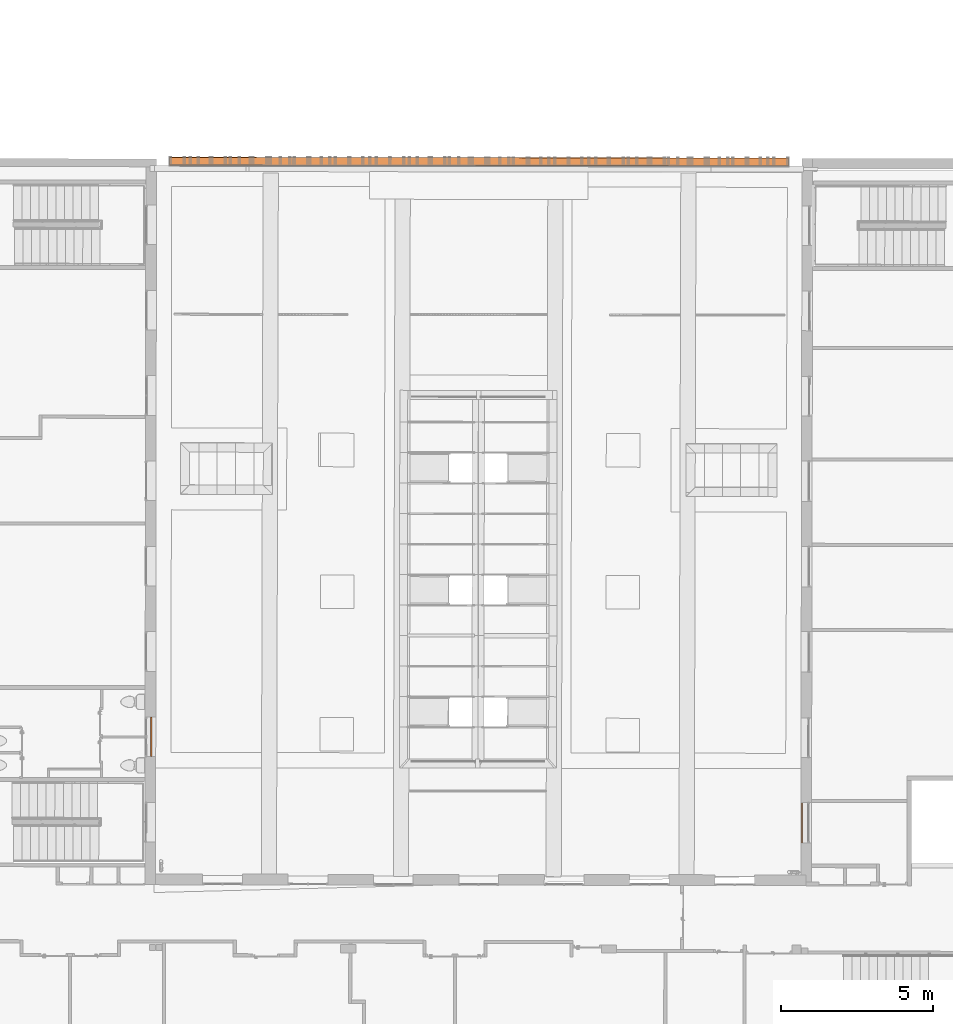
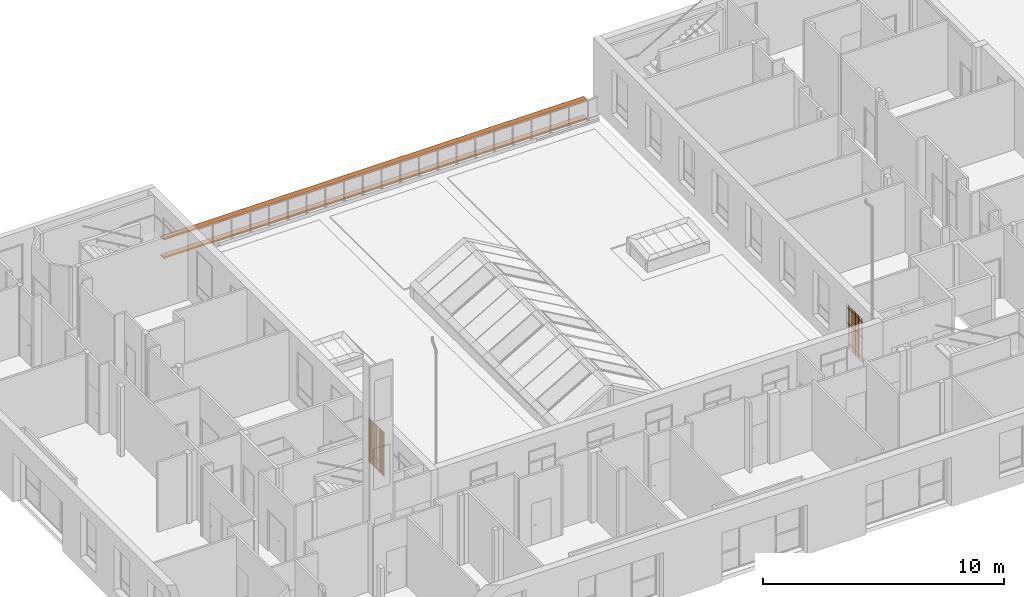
# One storey, part 101 of 101: 4 proxies.
"""IFC2X3 building model written with IfcOpenShell, lengths in metres."""

from ifc_helpers import new_model, entity, si_unit, converted_unit, derived_unit, direction, frame, frame_2d, origin, place, context, subcontext, project, spatial, polyline, circle_curve, parameter, trimmed, segment, composite_curve, outline, extrude, source, transform, mapped, material, type_object, type_shapes, element, save


model = new_model("IFC2X3")

# Units and contexts
model_context = context("Model", 3, precision=1e-05, world=origin(), true_north=direction((6.123233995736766e-17, 1.0)))
body_context = subcontext(model_context, "Body", "Model", "MODEL_VIEW")
ifc_project = project(units=[si_unit("LENGTHUNIT", "METRE"), si_unit("AREAUNIT", "SQUARE_METRE"), converted_unit("PLANEANGLEUNIT", "DEGREE", entity("IfcPlaneAngleMeasure", 0.017453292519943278), si_unit("PLANEANGLEUNIT", "RADIAN"), dimensions=[0, 0, 0, 0, 0, 0, 0]), derived_unit("THERMALTRANSMITTANCEUNIT", [(si_unit("MASSUNIT", "GRAM", prefix="KILO"), 1), (si_unit("THERMODYNAMICTEMPERATUREUNIT", "KELVIN"), -1), (si_unit("TIMEUNIT", "SECOND"), -3)])], contexts=[model_context])

# Site, building, storey
site_placement = place(None, frame((1253.6752467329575, 2072.143113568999, 91.49999999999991), z_axis=(0.0, 0.0, 1.0), x_axis=(0.7237211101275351, 0.6900925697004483, 0.0)))
site = spatial("IfcSite", under=ifc_project, at=site_placement, Name="Surface", CompositionType="ELEMENT")
building_placement = place(site_placement, origin())
building = spatial("IfcBuilding", under=site, at=building_placement, CompositionType="ELEMENT")
storey_placement = place(building_placement, origin())
storey = spatial("IfcBuildingStorey", under=building, at=storey_placement, Name="0- Rdc", CompositionType="ELEMENT", Elevation=-5.764692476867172e-13)

# Proxies
ifc_material_1 = material(Name="White RAL 9003")
building_element_proxy_type_1 = type_object("IfcBuildingElementProxyType", Name="grille WC:grille WC", PredefinedType="NOTDEFINED", material=ifc_material_1)
shared_shape_1 = source(origin(), body_context, "Body", "SweptSolid", [
    extrude(outline(polyline([(-0.6457871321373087, -1.3410000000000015), (0.6539087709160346, -1.3410000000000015), (0.653908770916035, -1.3310000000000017), (0.6039087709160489, -1.3310000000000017), (0.6039087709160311, 0.3639999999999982), (0.6539087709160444, 0.3639999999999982), (0.6539087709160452, 0.3739999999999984), (0.6039087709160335, 0.3739999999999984), (0.6039087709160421, 0.838999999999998), (0.6539087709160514, 0.838999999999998), (0.6539087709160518, 0.8489999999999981), (-0.6457871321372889, 0.8489999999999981), (-0.6457871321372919, 0.8390000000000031), (-0.6160912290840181, 0.8390000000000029), (-0.6160912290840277, 0.3740000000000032), (-0.6457871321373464, 0.3740000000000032), (-0.6457871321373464, 0.3640000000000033), (-0.6160912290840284, 0.3640000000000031), (-0.6160912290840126, -1.3309999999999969), (-0.6457871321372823, -1.3309999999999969), (-0.6457871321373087, -1.3410000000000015)]), holes=[polyline([(0.5839087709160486, 0.3739999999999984), (0.48390877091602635, 0.3739999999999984), (0.48390877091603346, 0.838999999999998), (0.5839087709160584, 0.838999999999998), (0.5839087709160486, 0.3739999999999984)]), polyline([(0.5839087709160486, 0.3639999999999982), (0.5839087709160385, -1.3310000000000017), (0.4839087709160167, -1.3310000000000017), (0.4839087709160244, 0.3639999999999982), (0.5839087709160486, 0.3639999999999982)]), polyline([(0.4639087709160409, 0.3639999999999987), (0.4639087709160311, -1.331000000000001), (0.36390877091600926, -1.331000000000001), (0.36390877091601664, 0.3639999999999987), (0.4639087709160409, 0.3639999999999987)]), polyline([(0.4639087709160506, 0.8389999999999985), (0.4639087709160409, 0.3739999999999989), (0.3639087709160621, 0.3739999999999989), (0.36390877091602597, 0.8389999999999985), (0.4639087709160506, 0.8389999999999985)]), polyline([(0.34390877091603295, 0.36399999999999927), (0.34390877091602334, -1.3310000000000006), (0.2439087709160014, -1.3310000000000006), (0.2439087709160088, 0.36399999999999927), (0.34390877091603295, 0.36399999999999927)]), polyline([(0.3439087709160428, 0.8389999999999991), (0.34390877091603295, 0.37399999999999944), (0.24390877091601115, 0.37399999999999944), (0.2439087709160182, 0.8389999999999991), (0.3439087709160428, 0.8389999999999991)]), polyline([(0.22390877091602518, 0.3639999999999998), (0.2239087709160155, -1.3310000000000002), (0.12390877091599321, -1.3310000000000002), (0.12390877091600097, 0.3639999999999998), (0.22390877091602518, 0.3639999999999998)]), polyline([(0.22390877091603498, 0.8389999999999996), (0.22390877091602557, 0.374), (0.12390877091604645, 0.374), (0.12390877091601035, 0.8389999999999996), (0.22390877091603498, 0.8389999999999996)]), polyline([(0.10390877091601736, 0.3640000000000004), (0.10390877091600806, -1.3309999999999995), (0.003908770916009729, -1.3309999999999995), (0.003908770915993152, 0.3640000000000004), (0.10390877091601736, 0.3640000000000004)]), polyline([(0.10390877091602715, 0.8390000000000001), (0.10390877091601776, 0.37400000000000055), (0.003908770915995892, 0.37400000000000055), (0.003908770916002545, 0.8390000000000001), (0.10390877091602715, 0.8390000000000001)]), polyline([(-0.01609122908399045, 0.3640000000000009), (-0.016091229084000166, -1.330999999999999), (-0.11609122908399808, -1.330999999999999), (-0.11609122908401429, 0.3640000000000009), (-0.01609122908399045, 0.3640000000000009)]), polyline([(-0.016091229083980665, 0.8390000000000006), (-0.01609122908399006, 0.37400000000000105), (-0.11609122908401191, 0.37400000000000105), (-0.11609122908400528, 0.8390000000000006), (-0.016091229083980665, 0.8390000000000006)]), polyline([(-0.13609122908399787, 0.36400000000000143), (-0.13609122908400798, -1.3309999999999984), (-0.23609122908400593, -1.3309999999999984), (-0.2360912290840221, 0.36400000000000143), (-0.13609122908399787, 0.36400000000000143)]), polyline([(-0.1360912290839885, 0.8390000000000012), (-0.13609122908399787, 0.3740000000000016), (-0.23609122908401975, 0.3740000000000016), (-0.2360912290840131, 0.8390000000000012), (-0.1360912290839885, 0.8390000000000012)]), polyline([(-0.25609122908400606, 0.364000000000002), (-0.25609122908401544, -1.330999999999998), (-0.35609122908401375, -1.330999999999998), (-0.3560912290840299, 0.364000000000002), (-0.25609122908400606, 0.364000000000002)]), polyline([(-0.25609122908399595, 0.8390000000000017), (-0.25609122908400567, 0.37400000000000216), (-0.3560912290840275, 0.37400000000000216), (-0.3560912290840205, 0.8390000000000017), (-0.25609122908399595, 0.8390000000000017)]), polyline([(-0.3760912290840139, 0.36400000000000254), (-0.3760912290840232, -1.3309999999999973), (-0.47609122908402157, -1.3309999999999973), (-0.4760912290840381, 0.36400000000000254), (-0.3760912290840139, 0.36400000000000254)]), polyline([(-0.3760912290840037, 0.8390000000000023), (-0.37609122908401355, 0.3740000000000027), (-0.4760912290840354, 0.3740000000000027), (-0.47609122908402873, 0.8390000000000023), (-0.3760912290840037, 0.8390000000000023)]), polyline([(-0.49609122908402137, 0.3640000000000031), (-0.49609122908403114, -1.3309999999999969), (-0.5960912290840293, -1.3309999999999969), (-0.596091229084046, 0.3640000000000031), (-0.49609122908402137, 0.3640000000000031)]), polyline([(-0.4960912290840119, 0.8390000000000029), (-0.49609122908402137, 0.3740000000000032), (-0.5960912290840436, 0.3740000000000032), (-0.5960912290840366, 0.8390000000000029), (-0.4960912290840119, 0.8390000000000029)])]), frame((163.06232119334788, 4.475421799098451, 1.5089999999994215), z_axis=(0.7228702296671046, -0.6909838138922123, 0.0), x_axis=(-0.6909838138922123, -0.7228702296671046, 0.0)), (0.0, 0.0, 1.0), 0.0527295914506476),
])
type_shapes(building_element_proxy_type_1, [shared_shape_1])
proxy_1_placement = place(storey_placement, origin())
element("IfcBuildingElementProxy", 1, at=proxy_1_placement, inside=storey, type_object=building_element_proxy_type_1, material=ifc_material_1, Name="grille WC:grille WC", ObjectType="grille WC:grille WC", context=body_context, shape_type="MappedRepresentation", body=[
    mapped(shared_shape_1, transform((0.0, 0.0, 0.0), scale=1.0)),
])
building_element_proxy_type_2 = type_object("IfcBuildingElementProxyType", Name="grille 2:grille 2", PredefinedType="NOTDEFINED", material=ifc_material_1)
shared_shape_2 = source(origin(), body_context, "Body", "SweptSolid", [
    extrude(outline(polyline([(0.6089762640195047, 0.7776050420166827), (0.6589762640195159, 0.7776050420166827), (0.6589762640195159, 0.7976050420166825), (0.6089762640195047, 0.7976050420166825), (0.6089762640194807, 0.9776050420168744), (0.5989762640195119, 0.9926050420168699), (0.5889762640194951, 0.9776050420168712), (0.5889762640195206, 0.7976050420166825), (0.4889762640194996, 0.7976050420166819), (0.488976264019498, 0.977605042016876), (0.47897626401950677, 0.9926050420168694), (0.46897626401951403, 0.9776050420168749), (0.46897626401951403, 0.7976050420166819), (0.36897626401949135, 0.7976050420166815), (0.36897626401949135, 0.9776050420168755), (0.35897626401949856, 0.9926050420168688), (0.3489762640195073, 0.9776050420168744), (0.34897626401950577, 0.7976050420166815), (0.24897626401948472, 0.7976050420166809), (0.24897626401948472, 0.9776050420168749), (0.23897626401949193, 0.9926050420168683), (0.22897626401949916, 0.9776050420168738), (0.22897626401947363, 0.7976050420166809), (0.12897626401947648, 0.7976050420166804), (0.12897626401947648, 0.9776050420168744), (0.11897626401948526, 0.9926050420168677), (0.1089762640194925, 0.9776050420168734), (0.10897626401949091, 0.7976050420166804), (0.008976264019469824, 0.7976050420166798), (0.008976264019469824, 0.9776050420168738), (-0.001023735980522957, 0.9926050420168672), (-0.011023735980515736, 0.9776050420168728), (-0.011023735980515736, 0.7976050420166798), (-0.11102373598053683, 0.7976050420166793), (-0.11102373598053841, 0.9776050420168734), (-0.12102373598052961, 0.9926050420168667), (-0.1310237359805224, 0.9776050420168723), (-0.1310237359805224, 0.7976050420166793), (-0.2310237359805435, 0.7976050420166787), (-0.23102373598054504, 0.9776050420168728), (-0.24102373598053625, 0.9926050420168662), (-0.2510237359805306, 0.9776050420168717), (-0.2510237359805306, 0.7976050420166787), (-0.35102373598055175, 0.7976050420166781), (-0.3510237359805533, 0.9776050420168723), (-0.36102373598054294, 0.9926050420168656), (-0.3710237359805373, 0.9776050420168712), (-0.3710237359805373, 0.7976050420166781), (-0.47102373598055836, 0.7976050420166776), (-0.4710237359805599, 0.9776050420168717), (-0.48102373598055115, 0.9926050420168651), (-0.49102373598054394, 0.9776050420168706), (-0.49102373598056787, 0.7976050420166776), (-0.591023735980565, 0.7976050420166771), (-0.5910237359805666, 0.9776050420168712), (-0.6010237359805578, 0.9926050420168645), (-0.6110237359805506, 0.97760504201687), (-0.6110237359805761, 0.7976050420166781), (-0.6407196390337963, 0.7976050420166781), (-0.6407196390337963, 0.7776050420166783), (-0.6110237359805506, 0.7776050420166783), (-0.6110237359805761, 0.03760504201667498), (-0.6407196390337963, 0.03760504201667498), (-0.6407196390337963, 0.017605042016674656), (-0.6110237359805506, 0.017605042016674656), (-0.6110237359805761, -0.9673949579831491), (-0.6407196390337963, -0.9673949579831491), (-0.6407196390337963, -0.9873949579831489), (-0.6110237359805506, -0.9873949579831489), (-0.6110237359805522, -1.2423949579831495), (-0.591023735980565, -1.2423949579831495), (-0.591023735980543, -0.9873949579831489), (-0.49102373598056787, -0.9873949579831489), (-0.49102373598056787, -1.242394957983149), (-0.47102373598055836, -1.2423949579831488), (-0.47102373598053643, -0.9873949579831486), (-0.3710237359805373, -0.9873949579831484), (-0.3710237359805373, -1.2423949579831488), (-0.35102373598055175, -1.2423949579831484), (-0.35102373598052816, -0.9873949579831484), (-0.2510237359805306, -0.9873949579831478), (-0.2510237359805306, -1.2423949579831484), (-0.2310237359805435, -1.242394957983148), (-0.23102373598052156, -0.9873949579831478), (-0.1310237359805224, -0.9873949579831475), (-0.1310237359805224, -1.2423949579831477), (-0.11102373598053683, -1.2423949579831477), (-0.11102373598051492, -0.9873949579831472), (-0.011023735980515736, -0.9873949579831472), (-0.011023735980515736, -1.2423949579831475), (0.008976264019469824, -1.2423949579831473), (0.008976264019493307, -0.9873949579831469), (0.10897626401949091, -0.9873949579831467), (0.10897626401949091, -1.2423949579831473), (0.12897626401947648, -1.2423949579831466), (0.12897626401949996, -0.9873949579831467), (0.22897626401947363, -0.9873949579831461), (0.22897626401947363, -1.2423949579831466), (0.24897626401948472, -1.2423949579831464), (0.24897626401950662, -0.9873949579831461), (0.34897626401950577, -0.9873949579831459), (0.34897626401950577, -1.2423949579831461), (0.36897626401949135, -1.2423949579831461), (0.36897626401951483, -0.9873949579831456), (0.46897626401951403, -0.9873949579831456), (0.46897626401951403, -1.242394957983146), (0.4889762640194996, -1.2423949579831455), (0.48897626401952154, -0.9873949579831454), (0.5889762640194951, -0.987394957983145), (0.5889762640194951, -1.2423949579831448), (0.6089762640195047, -1.2423949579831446), (0.6089762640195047, -0.987394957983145), (0.658976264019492, -0.9873949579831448), (0.658976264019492, -0.9673949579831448), (0.6089762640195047, -0.9673949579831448), (0.6089762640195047, 0.017605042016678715), (0.6589762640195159, 0.017605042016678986), (0.6589762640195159, 0.037605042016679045), (0.6089762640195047, 0.037605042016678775), (0.6089762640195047, 0.7776050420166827)]), holes=[polyline([(0.48897626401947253, 0.7776050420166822), (0.5889762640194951, 0.7776050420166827), (0.5889762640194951, 0.037605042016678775), (0.488976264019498, 0.037605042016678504), (0.48897626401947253, 0.7776050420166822)]), polyline([(0.488976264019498, 0.017605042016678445), (0.5889762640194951, 0.017605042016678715), (0.5889762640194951, -0.967394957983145), (0.4889762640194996, -0.9673949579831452), (0.488976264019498, 0.017605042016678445)]), polyline([(0.46897626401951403, 0.7776050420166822), (0.4689762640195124, 0.037605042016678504), (0.36897626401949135, 0.03760504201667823), (0.3689762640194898, 0.7776050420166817), (0.46897626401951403, 0.7776050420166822)]), polyline([(0.46897626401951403, 0.017605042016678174), (0.4689762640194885, -0.9673949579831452), (0.36897626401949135, -0.9673949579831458), (0.3689762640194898, 0.017605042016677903), (0.46897626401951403, 0.017605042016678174)]), polyline([(0.34897626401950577, 0.7776050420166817), (0.3489762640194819, 0.03760504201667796), (0.24897626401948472, 0.03760504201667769), (0.24897626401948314, 0.7776050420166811), (0.34897626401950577, 0.7776050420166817)]), polyline([(0.34897626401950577, 0.017605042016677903), (0.3489762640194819, -0.9673949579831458), (0.24897626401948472, -0.9673949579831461), (0.24897626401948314, 0.017605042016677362), (0.34897626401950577, 0.017605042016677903)]), polyline([(0.22897626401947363, 0.7776050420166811), (0.22897626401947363, 0.03760504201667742), (0.12897626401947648, 0.03760504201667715), (0.12897626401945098, 0.7776050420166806), (0.22897626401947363, 0.7776050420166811)]), polyline([(0.22897626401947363, 0.01760504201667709), (0.22897626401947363, -0.9673949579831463), (0.12897626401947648, -0.9673949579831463), (0.12897626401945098, 0.01760504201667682), (0.22897626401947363, 0.01760504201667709)]), polyline([(0.10897626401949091, 0.7776050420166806), (0.10897626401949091, 0.03760504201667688), (0.008976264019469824, 0.03760504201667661), (0.008976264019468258, 0.77760504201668), (0.10897626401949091, 0.7776050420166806)]), polyline([(0.10897626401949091, 0.01760504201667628), (0.10897626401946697, -0.9673949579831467), (0.008976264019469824, -0.9673949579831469), (0.008976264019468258, 0.01760504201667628), (0.10897626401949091, 0.01760504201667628)]), polyline([(-0.011023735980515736, 0.77760504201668), (-0.01102373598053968, 0.03760504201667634), (-0.11102373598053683, 0.03760504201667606), (-0.11102373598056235, 0.7776050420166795), (-0.011023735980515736, 0.77760504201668)]), polyline([(-0.011023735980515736, 0.01760504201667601), (-0.011023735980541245, -0.9673949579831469), (-0.11102373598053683, -0.9673949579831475), (-0.11102373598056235, 0.01760504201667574), (-0.011023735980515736, 0.01760504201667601)]), polyline([(-0.1310237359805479, 0.7776050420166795), (-0.1310237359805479, 0.03760504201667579), (-0.2310237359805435, 0.03760504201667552), (-0.23102373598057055, 0.7776050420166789), (-0.1310237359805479, 0.7776050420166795)]), polyline([(-0.1310237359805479, 0.01760504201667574), (-0.1310237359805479, -0.9673949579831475), (-0.2310237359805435, -0.9673949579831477), (-0.23102373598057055, 0.017605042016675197), (-0.1310237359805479, 0.01760504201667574)]), polyline([(-0.2510237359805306, 0.7776050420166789), (-0.25102373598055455, 0.03760504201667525), (-0.35102373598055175, 0.03760504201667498), (-0.35102373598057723, 0.7776050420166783), (-0.2510237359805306, 0.7776050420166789)]), polyline([(-0.2510237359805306, 0.017605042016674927), (-0.25102373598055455, -0.967394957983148), (-0.35102373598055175, -0.967394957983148), (-0.35102373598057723, 0.017605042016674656), (-0.2510237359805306, 0.017605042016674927)]), polyline([(-0.3710237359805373, 0.7776050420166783), (-0.37102373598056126, 0.03760504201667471), (-0.47102373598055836, 0.03760504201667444), (-0.4710237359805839, 0.7776050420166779), (-0.3710237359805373, 0.7776050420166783)]), polyline([(-0.3710237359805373, 0.017605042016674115), (-0.37102373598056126, -0.9673949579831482), (-0.47102373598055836, -0.9673949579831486), (-0.4710237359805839, 0.017605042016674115), (-0.3710237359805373, 0.017605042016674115)]), polyline([(-0.49102373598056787, 0.7776050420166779), (-0.4910237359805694, 0.03760504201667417), (-0.5910237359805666, 0.0376050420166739), (-0.5910237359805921, 0.7776050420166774), (-0.49102373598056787, 0.7776050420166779)]), polyline([(-0.49102373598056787, 0.017605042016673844), (-0.4910237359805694, -0.9673949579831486), (-0.5910237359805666, -0.9673949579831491), (-0.5910237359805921, 0.017605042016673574), (-0.49102373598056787, 0.017605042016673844)])]), frame((176.56564602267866, -12.323953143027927, 1.872394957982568), z_axis=(0.7228702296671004, -0.6909838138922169, 0.0), x_axis=(0.6909838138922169, 0.7228702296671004, 0.0)), (0.0, 0.0, 1.0), 0.022582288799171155),
])
type_shapes(building_element_proxy_type_2, [shared_shape_2])
proxy_2_placement = place(storey_placement, origin())
element("IfcBuildingElementProxy", 2, at=proxy_2_placement, inside=storey, type_object=building_element_proxy_type_2, material=ifc_material_1, Name="grille 2:grille 2", ObjectType="grille 2:grille 2", context=body_context, shape_type="MappedRepresentation", body=[
    mapped(shared_shape_2, transform((0.0, 0.0, 0.0), scale=1.0)),
])
ifc_material_2 = material(Name="OMD_couleur facade-blanc perlé")
building_element_proxy_type_3 = type_object("IfcBuildingElementProxyType", Name="Profil en relief:tube facade profil 1%", PredefinedType="NOTDEFINED")
proxy_3_placement = place(storey_placement, frame((176.45397034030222, 3.5715918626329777, -0.2835403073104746)))
element("IfcBuildingElementProxy", 3, at=proxy_3_placement, inside=storey, type_object=building_element_proxy_type_3, material=ifc_material_2, Name="Profil en relief:tube facade profil 1%", ObjectType="Profil en relief:tube facade profil 1%", context=body_context, shape_type="SweptSolid", body=[
    extrude(outline(composite_curve([segment(polyline([(-0.028749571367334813, -0.135000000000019), (0.02624871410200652, -0.135000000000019)]), True, "CONTINUOUS"), segment(trimmed(circle_curve(frame_2d((0.026091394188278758, -0.1246510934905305), x_axis=(0.0, 1.0)), 0.010350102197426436), [parameter(180.87092030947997)], [parameter(268.0681680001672)], True, "PARAMETER"), True, "CONTINUOUS"), segment(polyline([(0.03643561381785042, -0.12499999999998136), (0.04106524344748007, 0.1250000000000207)]), True, "CONTINUOUS"), segment(trimmed(circle_curve(frame_2d((0.031065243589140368, 0.12500168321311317), x_axis=(0.0, 1.0)), 0.01), [parameter(269.9903558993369)], [parameter(358.94873241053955)], True, "PARAMETER"), True, "CONTINUOUS"), segment(polyline([(0.031248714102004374, 0.1350000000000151), (-0.028749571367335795, 0.1350000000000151)]), True, "CONTINUOUS"), segment(trimmed(circle_curve(frame_2d((-0.028749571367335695, 0.12499999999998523), x_axis=(0.0, 1.0)), 0.00999999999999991), [parameter(4.0711099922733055e-13)], [parameter(90.00000000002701)], True, "PARAMETER"), True, "CONTINUOUS"), segment(polyline([(-0.038749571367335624, 0.1249999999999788), (-0.03874957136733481, -0.1250000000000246)]), True, "CONTINUOUS"), segment(trimmed(circle_curve(frame_2d((-0.028749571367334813, -0.1249999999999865), x_axis=(0.0, 1.0)), 0.009999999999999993), [parameter(89.99999999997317)], [parameter(179.99999999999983)], True, "PARAMETER"), True, "CONTINUOUS")], self_intersect=False), holes=[composite_curve([segment(trimmed(circle_curve(frame_2d((0.02643475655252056, -0.12499999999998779), x_axis=(0.0, 1.0)), 0.004999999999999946), [parameter(179.9999999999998)], [parameter(267.8781766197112)], True, "PARAMETER"), False, "CONTINUOUS"), segment(polyline([(0.02643475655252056, -0.1300000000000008), (-0.02874957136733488, -0.1300000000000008)]), True, "CONTINUOUS"), segment(trimmed(circle_curve(frame_2d((-0.028749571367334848, -0.1249999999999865), x_axis=(0.0, 1.0)), 0.004999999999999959), [parameter(89.9999999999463)], [parameter(179.9999999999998)], True, "PARAMETER"), False, "CONTINUOUS"), segment(polyline([(-0.033749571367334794, -0.1250000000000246), (-0.033749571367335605, 0.1249999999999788)]), True, "CONTINUOUS"), segment(trimmed(circle_curve(frame_2d((-0.02874957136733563, 0.12499999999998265), x_axis=(0.0, 1.0)), 0.004999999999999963), [parameter(0.0)], [parameter(90.00000000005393)], True, "PARAMETER"), False, "CONTINUOUS"), segment(polyline([(-0.02874957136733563, 0.12999999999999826), (0.031156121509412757, 0.12999999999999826)]), True, "CONTINUOUS"), segment(trimmed(circle_curve(frame_2d((0.0311561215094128, 0.1250900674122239), x_axis=(0.0, 1.0)), 0.004909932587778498), [parameter(269.9999999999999)], [parameter(359.9999999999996)], True, "PARAMETER"), False, "CONTINUOUS"), segment(polyline([(0.03606605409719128, 0.12509006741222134), (0.03143132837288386, -0.12518512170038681)]), True, "CONTINUOUS")], self_intersect=False)]), frame((0.0948780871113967, 14.131346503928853, 0.040344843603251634), z_axis=(0.7228702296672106, -0.6909838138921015, 0.0), x_axis=(0.0, 0.0, 1.0)), (0.0, 0.0, 1.0), 20.307514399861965),
])
proxy_4_placement = place(storey_placement, frame((176.4538215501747, 3.5715629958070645, 0.653335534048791)))
element("IfcBuildingElementProxy", 4, at=proxy_4_placement, inside=storey, type_object=building_element_proxy_type_3, material=ifc_material_2, Name="Profil en relief:tube facade profil 1%", ObjectType="Profil en relief:tube facade profil 1%", context=body_context, shape_type="SweptSolid", body=[
    extrude(outline(composite_curve([segment(polyline([(-0.028749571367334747, -0.1350000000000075), (0.02624871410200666, -0.1350000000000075)]), True, "CONTINUOUS"), segment(trimmed(circle_curve(frame_2d((0.026091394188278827, -0.1246510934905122), x_axis=(0.0, 1.0)), 0.010350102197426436), [parameter(180.87092030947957)], [parameter(268.06816800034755)], True, "PARAMETER"), True, "CONTINUOUS"), segment(polyline([(0.03643561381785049, -0.12500000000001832), (0.04106524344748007, 0.1250000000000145)]), True, "CONTINUOUS"), segment(trimmed(circle_curve(frame_2d((0.031065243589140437, 0.1250016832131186), x_axis=(0.0, 1.0)), 0.01), [parameter(269.99035589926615)], [parameter(358.9487324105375)], True, "PARAMETER"), True, "CONTINUOUS"), segment(polyline([(0.03124871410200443, 0.13500000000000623), (-0.028749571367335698, 0.13500000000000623)]), True, "CONTINUOUS"), segment(trimmed(circle_curve(frame_2d((-0.02874957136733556, 0.1250000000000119), x_axis=(0.0, 1.0)), 0.00999999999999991), [parameter(7.633331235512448e-13)], [parameter(89.99999999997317)], True, "PARAMETER"), True, "CONTINUOUS"), segment(polyline([(-0.03874957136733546, 0.1250000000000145), (-0.038749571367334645, -0.12500000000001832)]), True, "CONTINUOUS"), segment(trimmed(circle_curve(frame_2d((-0.028749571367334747, -0.1250000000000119), x_axis=(0.0, 1.0)), 0.009999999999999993), [parameter(90.00000000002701)], [parameter(179.99999999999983)], True, "PARAMETER"), True, "CONTINUOUS")], self_intersect=False), holes=[composite_curve([segment(trimmed(circle_curve(frame_2d((0.0264347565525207, -0.1250000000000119), x_axis=(0.0, 1.0)), 0.004999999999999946), [parameter(180.00000000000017)], [parameter(267.8781766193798)], True, "PARAMETER"), False, "CONTINUOUS"), segment(polyline([(0.0264347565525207, -0.12999999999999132), (-0.028749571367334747, -0.12999999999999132)]), True, "CONTINUOUS"), segment(trimmed(circle_curve(frame_2d((-0.028749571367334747, -0.1250000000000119), x_axis=(0.0, 1.0)), 0.004999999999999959), [parameter(90.00000000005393)], [parameter(180.00000000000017)], True, "PARAMETER"), False, "CONTINUOUS"), segment(polyline([(-0.033749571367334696, -0.12500000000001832), (-0.03374957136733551, 0.1250000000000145)]), True, "CONTINUOUS"), segment(trimmed(circle_curve(frame_2d((-0.02874957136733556, 0.1250000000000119), x_axis=(0.0, 1.0)), 0.004999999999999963), [parameter(0.0)], [parameter(89.9999999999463)], True, "PARAMETER"), False, "CONTINUOUS"), segment(polyline([(-0.02874957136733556, 0.12999999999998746), (0.031156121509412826, 0.12999999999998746)]), True, "CONTINUOUS"), segment(trimmed(circle_curve(frame_2d((0.031156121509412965, 0.12509006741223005), x_axis=(0.0, 1.0)), 0.004909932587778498), [parameter(270.00000000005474)], [parameter(0.0)], True, "PARAMETER"), False, "CONTINUOUS"), segment(polyline([(0.03606605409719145, 0.12509006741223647), (0.031431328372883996, -0.12518512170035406)]), True, "CONTINUOUS")], self_intersect=False)]), frame((0.09487724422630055, 14.131220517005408, 0.04034484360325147), z_axis=(0.7228761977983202, -0.6909775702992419, 0.0), x_axis=(0.0, 0.0, 1.0)), (0.0, 0.0, 1.0), 20.307514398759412),
])

save(model, "model.ifc")
